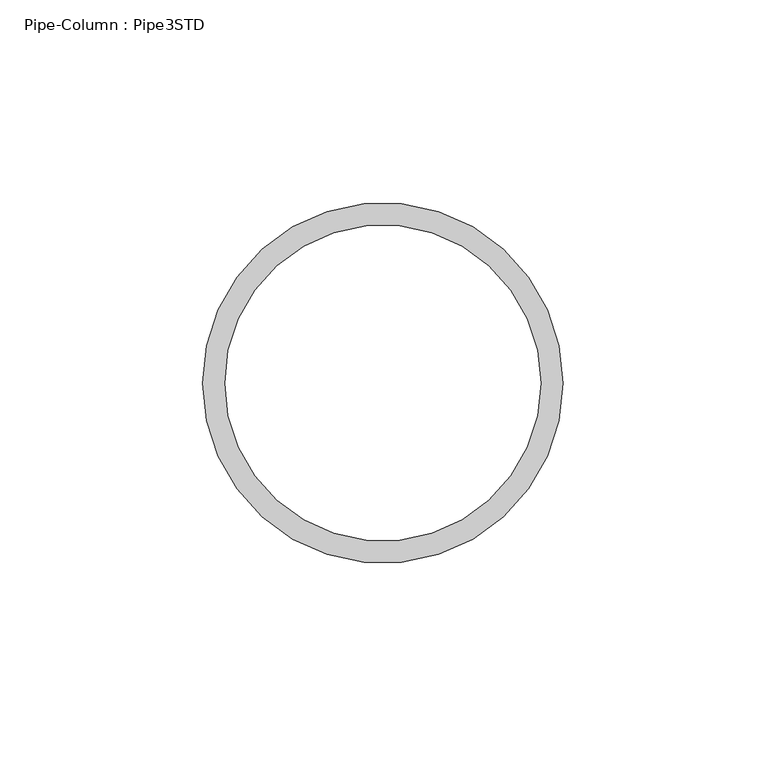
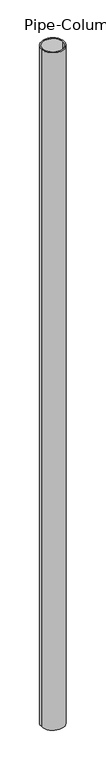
"""IFC4 building model written with IfcOpenShell, lengths in millimetres: column geometry, Pipe-Column : Pipe3STD."""

from ifc_helpers import new_model, si_unit, point, frame, origin, origin_2d, place, context, project, spatial, circle_curve, trimmed, segment, composite_curve, outline, extrude, source, transform, mapped, element, save


def pipe_column_pipe3std_cec0fb77(model_context):
    return source(origin(), model_context, "Body", "SweptSolid", [
        extrude(outline(composite_curve([segment(trimmed(circle_curve(origin_2d(), 44.45), [point((-44.45, 0.0))], [point((44.45, 0.0))], False, "CARTESIAN"), True, "CONTINUOUS"), segment(trimmed(circle_curve(origin_2d(), 44.45), [point((44.45, 0.0))], [point((-44.45, 0.0))], False, "CARTESIAN"), True, "CONTINUOUS")], self_intersect=False), holes=[composite_curve([segment(trimmed(circle_curve(origin_2d(), 38.9636), [point((-38.9636, 0.0))], [point((38.9636, 0.0))], True, "CARTESIAN"), True, "CONTINUOUS"), segment(trimmed(circle_curve(origin_2d(), 38.9636), [point((38.9636, 0.0))], [point((-38.9636, 0.0))], True, "CARTESIAN"), True, "CONTINUOUS")], self_intersect=False)]), frame((0.0, 0.0, -2406.65), z_axis=(0.0, 0.0, 1.0), x_axis=(1.0, 0.0, 0.0)), (0.0, 0.0, 1.0), 2757.4875),
    ])


if __name__ == "__main__":
    model = new_model("IFC4")
    model_context = context("Model", 3, world=origin())
    ifc_project = project(units=[si_unit("LENGTHUNIT", "METRE", prefix="MILLI")], contexts=[model_context])
    site = spatial("IfcSite", under=ifc_project)
    building = spatial("IfcBuilding", under=site)
    placement = place(None, origin())
    pipe_column_pipe3std_shape = pipe_column_pipe3std_cec0fb77(model_context)
    element("IfcColumn", 1, ObjectType="Pipe-Column : Pipe3STD", at=placement, inside=building, context=model_context, shape_type="MappedRepresentation", body=[
        mapped(pipe_column_pipe3std_shape, transform((0.0, 0.0, 0.0), x_axis=(1.0, 0.0, 0.0), y_axis=(0.0, 1.0, 0.0), z_axis=(0.0, 0.0, 1.0))),
    ])
    save(model, "model.ifc")
